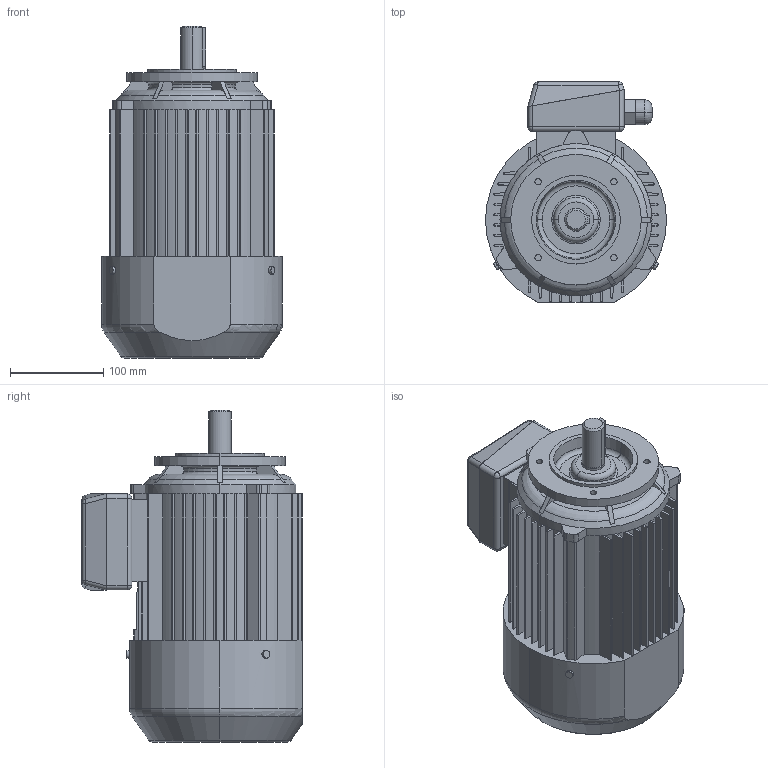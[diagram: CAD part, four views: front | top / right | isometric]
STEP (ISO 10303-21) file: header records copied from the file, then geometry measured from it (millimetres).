
FILE_DESCRIPTION (( 'STEP AP203' ), '1' );
FILE_NAME ('3SIEK90L4,6-B14-C2.STEP', '2016-02-08T11:55:04', ( 'Indukta' ), ( 'Celma Indukta S.A.' ), 'SwSTEP 2.0', 'SolidWorks 2003064', '' );
FILE_SCHEMA (( 'CONFIG_CONTROL_DESIGN' ));
Length unit declared in the file: millimetre
Products named in the file (1): 3SIEK90L4,6-B14-C2
Bounding box: 194 x 236 x 356 mm (x, y, z)
Volume: 7661559 mm3; surface area: 386422.5 mm2
Topology: 1 solids, 1 shells, 603 faces, 1618 edges, 1031 vertices
Faces by surface type: plane 311, cylinder 155, bspline 78, torus 37, cone 14, sphere 8
Entity records: 25478 total; most frequent: CARTESIAN_POINT 10681, ORIENTED_EDGE 3220, DIRECTION 2878, EDGE_CURVE 1610, VERTEX_POINT 1031, AXIS2_PLACEMENT_3D 990, LINE 898, VECTOR 898
